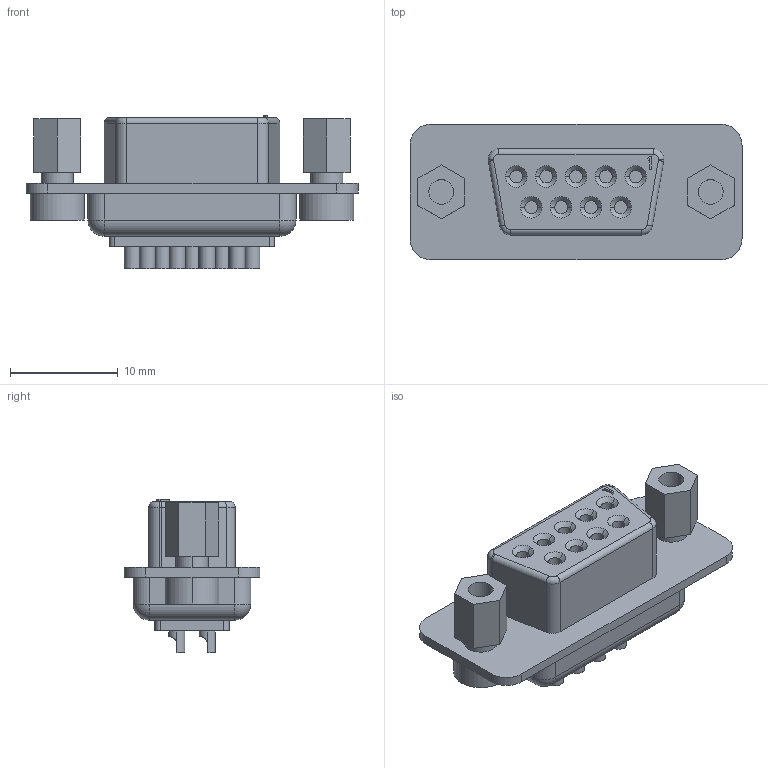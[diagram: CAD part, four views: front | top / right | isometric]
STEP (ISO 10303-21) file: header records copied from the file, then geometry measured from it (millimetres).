
FILE_DESCRIPTION (( 'STEP AP214' ), '1' );
FILE_NAME ('DB-9F.STEP', '2011-05-17T10:15:00', ( 'vpeshkov' ), ( 'licard' ), 'SwSTEP 2.0', 'SolidWorks 2009', '' );
FILE_SCHEMA (( 'AUTOMOTIVE_DESIGN' ));
Length unit declared in the file: millimetre
Products named in the file (1): DB-9F
Bounding box: 30.8 x 12.6 x 14.2 mm (x, y, z)
Volume: 2195.1 mm3; surface area: 1980.3 mm2
Topology: 1 solids, 1 shells, 228 faces, 520 edges, 322 vertices
Faces by surface type: cylinder 104, plane 96, cone 18, torus 6, sphere 4
Entity records: 8373 total; most frequent: CARTESIAN_POINT 1382, DIRECTION 1146, ORIENTED_EDGE 1032, EDGE_CURVE 516, AXIS2_PLACEMENT_3D 428, VERTEX_POINT 322, LINE 290, VECTOR 290
